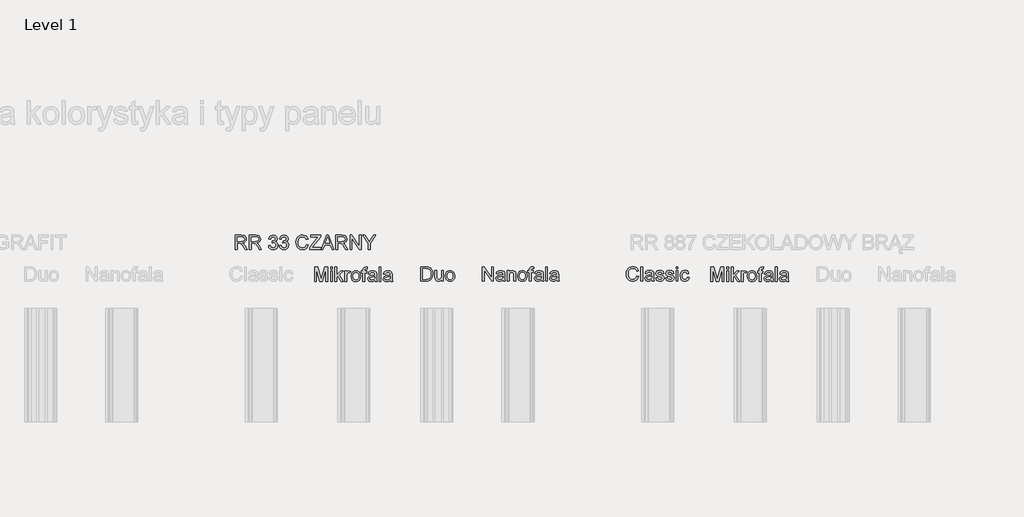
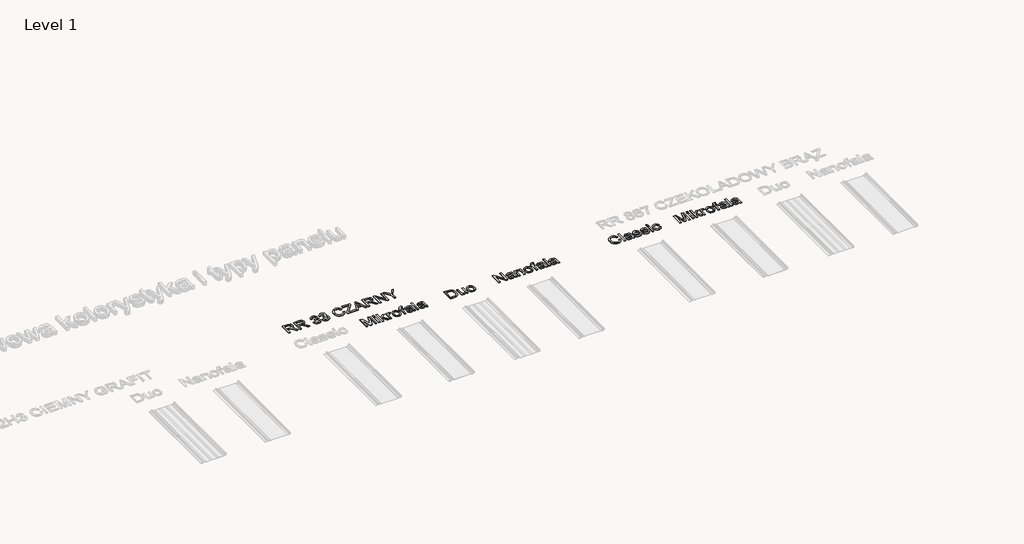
# One storey, part 21 of 24: 6 proxies.
"""IFC4 building model written with IfcOpenShell, lengths in millimetres."""

import ifcopenshell
import ifcopenshell.guid

model = None  # the IFC model being written
_history = None  # IfcOwnerHistory: only IFC2X3 demands one
_inside = {}  # id of a spatial element -> (the spatial element, [elements in it])
_under = {}  # id of a project, library or spatial element -> (it, [spatial elements below it])
_declared = {}  # id of a project -> (the project, [libraries it declares])
_typed = {}  # id of a type object -> (the type object, [elements of that type])
_made_of = {}  # id of a material, layer set ... -> (it, [elements and type objects made of it])


def new_model(schema):
    """Start an empty IFC model of exactly this schema.

    Asked for "IFC4X3", IfcOpenShell would pick the latest addendum, in which some entities
    have other attributes; the version numbers below select the first issue.
    IFC2X3 requires an IfcOwnerHistory on every rooted entity: one is made here for all.
    """
    global model, _history
    if schema == "IFC4X3":
        model = ifcopenshell.file(schema_version=(4, 3, 0, 0))
    else:
        model = ifcopenshell.file(schema=schema)
    _inside.clear()
    _under.clear()
    _declared.clear()
    _typed.clear()
    _made_of.clear()
    _history = None
    if model.schema == "IFC2X3":
        org = make("IfcOrganization", Name="unknown")
        user = make(
            "IfcPersonAndOrganization",
            ThePerson=make("IfcPerson", FamilyName="unknown"),
            TheOrganization=org,
        )
        app = make(
            "IfcApplication",
            ApplicationDeveloper=org,
            Version="unknown",
            ApplicationFullName="unknown",
            ApplicationIdentifier="unknown",
        )
        _history = make(
            "IfcOwnerHistory",
            OwningUser=user,
            OwningApplication=app,
            ChangeAction="ADDED",
            CreationDate=0,
        )
    return model


def make(cls, **values):
    """One entity of the class cls with the attributes given. An attribute that is None is left unset."""
    return model.create_entity(
        cls, **{name: value for name, value in values.items() if value is not None}
    )


def rooted(cls, **values):
    """An entity with a GlobalId (a new one), such as an element, a storey or a relation."""
    return make(cls, GlobalId=ifcopenshell.guid.new(), OwnerHistory=_history, **values)


def si_unit(unit_type, name, prefix=None):
    """IfcSIUnit, for example si_unit("LENGTHUNIT", "METRE", prefix="MILLI")."""
    return make("IfcSIUnit", UnitType=unit_type, Prefix=prefix, Name=name)


def assignment(units):
    """IfcUnitAssignment: the units of a project."""
    return None if units is None else make("IfcUnitAssignment", Units=units)


def point(xyz):
    """IfcCartesianPoint."""
    return None if xyz is None else make("IfcCartesianPoint", Coordinates=xyz)


def direction(xyz):
    """IfcDirection."""
    return None if xyz is None else make("IfcDirection", DirectionRatios=xyz)


def frame(location, z_axis=None, x_axis=None):
    """IfcAxis2Placement3D, a coordinate frame: its origin and axes. An axis left out is left unset."""
    return make(
        "IfcAxis2Placement3D",
        Location=point(location),
        Axis=direction(z_axis),
        RefDirection=direction(x_axis),
    )


def origin():
    """The frame at (0, 0, 0) with its axes left unset."""
    return frame((0.0, 0.0, 0.0))


def place(relative_to, where):
    """IfcLocalPlacement: puts the frame where relative to a parent placement (None: the world)."""
    return make(
        "IfcLocalPlacement", PlacementRelTo=relative_to, RelativePlacement=where
    )


def context(
    kind, dimensions, precision=None, world=None, true_north=None, identifier=None
):
    """IfcGeometricRepresentationContext, for example the 3D "Model" context."""
    return make(
        "IfcGeometricRepresentationContext",
        ContextIdentifier=identifier,
        ContextType=kind,
        CoordinateSpaceDimension=dimensions,
        Precision=precision,
        WorldCoordinateSystem=world,
        TrueNorth=true_north,
    )


def project(units=None, contexts=None):
    """IfcProject with its units and contexts."""
    return rooted(
        "IfcProject",
        Name="project",
        RepresentationContexts=contexts,
        UnitsInContext=assignment(units),
    )


def spatial(cls, under=None, at=None, **own):
    """A site, building, storey or space (cls), placed at a placement, below another one or the project."""
    s = rooted(cls, ObjectPlacement=at, **own)
    if under is not None:
        _under.setdefault(under.id(), (under, []))[1].append(s)
    return s


def polyline(points):
    """IfcPolyline through the points."""
    return make("IfcPolyline", Points=[point(p) for p in points])


def outline(outer, holes=None, kind="AREA"):
    """IfcArbitraryClosedProfileDef: a profile drawn as a closed curve; with holes, ...WithVoids."""
    if holes is None:
        return make("IfcArbitraryClosedProfileDef", ProfileType=kind, OuterCurve=outer)
    return make(
        "IfcArbitraryProfileDefWithVoids",
        ProfileType=kind,
        OuterCurve=outer,
        InnerCurves=holes,
    )


def extrude(swept, where, along, depth):
    """IfcExtrudedAreaSolid: the profile swept, set in the frame where, extruded along a direction by depth."""
    return make(
        "IfcExtrudedAreaSolid",
        SweptArea=swept,
        Position=where,
        ExtrudedDirection=direction(along),
        Depth=depth,
    )


def shape(context_of_items, identifier, shape_type, items):
    """IfcShapeRepresentation: the items that make up one representation, for example the "Body"."""
    return make(
        "IfcShapeRepresentation",
        ContextOfItems=context_of_items,
        RepresentationIdentifier=identifier,
        RepresentationType=shape_type,
        Items=items,
    )


def made_of(thing, what):
    """Note that an element or type object is made of a material, layer set ...; save() writes the relation."""
    if what is not None:
        _made_of.setdefault(what.id(), (what, []))[1].append(thing)
    return thing


def element(
    cls,
    number,
    at=None,
    inside=None,
    cuts=None,
    type_object=None,
    material=None,
    context=None,
    identifier="Body",
    shape_type=None,
    held_by="IfcProductDefinitionShape",
    body=None,
    shapes=None,
    **own,
):
    """One element of the class cls, such as IfcWall. Its Tag is "e" and its number.

    at: its placement. inside: the storey or other place that contains it. cuts: it is an
    opening in that element (IfcRelVoidsElement). A single representation is given by context,
    identifier, shape_type and body (its items); several are given by shapes. held_by: the class
    of the entity that holds the representations. save() writes the other relations.
    """
    e = rooted(cls, Tag="e%d" % number, ObjectPlacement=at, **own)
    if body is not None:
        shapes = [shape(context, identifier, shape_type, body)]
    if shapes is not None:
        e.Representation = make(held_by, Representations=shapes)
    if inside is not None:
        _inside.setdefault(inside.id(), (inside, []))[1].append(e)
    if cuts is not None:
        rooted(
            "IfcRelVoidsElement", RelatingBuildingElement=cuts, RelatedOpeningElement=e
        )
    if type_object is not None:
        _typed.setdefault(type_object.id(), (type_object, []))[1].append(e)
    return made_of(e, material)


def aggregate(whole, parts):
    """IfcRelAggregates: a whole, such as a stair, and the parts it consists of."""
    return rooted("IfcRelAggregates", RelatingObject=whole, RelatedObjects=parts)


def save(model, path):
    """Write the relations noted so far, then the file.

    IfcRelAggregates (storeys below a building ...), IfcRelContainedInSpatialStructure (elements
    in a storey), IfcRelDefinesByType, IfcRelAssociatesMaterial and IfcRelDeclares: one each for
    every whole, place, type object, material and project.
    """
    for whole, parts in _under.values():
        aggregate(whole, parts)
    for where, things in _inside.values():
        rooted(
            "IfcRelContainedInSpatialStructure",
            RelatedElements=things,
            RelatingStructure=where,
        )
    for kind, things in _typed.values():
        rooted("IfcRelDefinesByType", RelatedObjects=things, RelatingType=kind)
    for what, things in _made_of.values():
        rooted("IfcRelAssociatesMaterial", RelatedObjects=things, RelatingMaterial=what)
    for by, libraries in _declared.values():
        rooted("IfcRelDeclares", RelatingContext=by, RelatedDefinitions=libraries)
    model.write(path)


model = new_model("IFC4")

# Units and contexts
model_context = context("Model", 3, world=origin())
ifc_project = project(units=[si_unit("LENGTHUNIT", "METRE", prefix="MILLI")], contexts=[model_context])

# Site, building, storey
site = spatial("IfcSite", under=ifc_project)
building = spatial("IfcBuilding", under=site)
storey = spatial("IfcBuildingStorey", under=building, Name="Level 1", Elevation=0.0)

# Proxies
placement = place(None, origin())
element("IfcBuildingElementProxy", 1, Name="150", ObjectType="150", at=placement, inside=storey, context=model_context, shape_type="SweptSolid", body=[
    extrude(outline(polyline([(-3695.6654959, 1124.718613), (-3695.6654959, 1275.4030782), (-3663.3654568, 1275.4030782), (-3632.4633692, 1169.1955462), (-3626.2093753, 1147.0122619), (-3619.4771347, 1171.0349562), (-3589.1636583, 1275.4030782), (-3556.7532546, 1275.4030782), (-3556.7532546, 1124.718613), (-3575.5888127, 1124.718613), (-3575.5888127, 1256.5675201), (-3613.44387, 1124.718613), (-3638.9380923, 1124.718613), (-3676.8299378, 1256.5675201), (-3676.8299378, 1124.718613), (-3695.6654959, 1124.718613)])), frame((0.0, 0.0, 600.0), z_axis=(0.0, 0.0, 1.0), x_axis=(1.0, 0.0, 0.0)), (0.0, 0.0, 1.0), 10.0),
    extrude(outline(polyline([(-3526.1454726, 1256.5675201), (-3526.1454726, 1275.4030782), (-3507.3099144, 1275.4030782), (-3507.3099144, 1256.5675201), (-3526.1454726, 1256.5675201)])), frame((0.0, 0.0, 600.0), z_axis=(0.0, 0.0, 1.0), x_axis=(1.0, 0.0, 0.0)), (0.0, 0.0, 1.0), 10.0),
    extrude(outline(polyline([(-3526.1454726, 1124.718613), (-3526.1454726, 1235.3775171), (-3507.3099144, 1235.3775171), (-3507.3099144, 1124.718613), (-3526.1454726, 1124.718613)])), frame((0.0, 0.0, 600.0), z_axis=(0.0, 0.0, 1.0), x_axis=(1.0, 0.0, 0.0)), (0.0, 0.0, 1.0), 10.0),
    extrude(outline(polyline([(-3479.0565772, 1124.718613), (-3479.0565772, 1275.4030782), (-3460.221019, 1275.4030782), (-3460.221019, 1194.4322511), (-3417.988166, 1235.3775171), (-3391.9421207, 1235.3775171), (-3434.7267968, 1193.9172163), (-3389.587676, 1124.718613), (-3411.5870193, 1124.718613), (-3448.228066, 1180.8206173), (-3460.221019, 1169.158758), (-3460.221019, 1124.718613), (-3479.0565772, 1124.718613)])), frame((0.0, 0.0, 600.0), z_axis=(0.0, 0.0, 1.0), x_axis=(1.0, 0.0, 0.0)), (0.0, 0.0, 1.0), 10.0),
    extrude(outline(polyline([(-3373.1065626, 1124.718613), (-3373.1065626, 1235.3775171), (-3356.6254492, 1235.3775171), (-3356.6254492, 1219.0067684), (-3344.9268017, 1234.0899302), (-3333.1545779, 1237.7319619), (-3314.2454433, 1231.9194264), (-3320.5362255, 1215.0336428), (-3333.7799773, 1218.8964038), (-3344.4301611, 1215.1807956), (-3351.2175839, 1204.8800997), (-3354.2710044, 1182.8807564), (-3354.2710044, 1124.718613), (-3373.1065626, 1124.718613)])), frame((0.0, 0.0, 600.0), z_axis=(0.0, 0.0, 1.0), x_axis=(1.0, 0.0, 0.0)), (0.0, 0.0, 1.0), 10.0),
    extrude(outline(polyline([(-3307.182109, 1180.0480651), (-3303.1078159, 1206.7287068), (-3290.8849367, 1225.4814915), (-3275.7833808, 1234.6693443), (-3257.7019807, 1237.7319619), (-3237.9145279, 1234.0025582), (-3222.1093977, 1222.814347), (-3211.748921, 1205.0502452), (-3208.2954287, 1181.5931694), (-3209.822139, 1162.5644732), (-3214.4022699, 1148.0791197), (-3221.902464, 1137.2311993), (-3232.1893643, 1129.1148028), (-3244.4076451, 1124.0518269), (-3257.7019807, 1122.3641682), (-3277.7285568, 1126.0797764), (-3293.5152929, 1137.2266008), (-3303.765405, 1155.3631832), (-3307.182109, 1180.0480651)]), holes=[polyline([(-3288.3465509, 1180.0848533), (-3286.1668501, 1163.0381213), (-3279.6277476, 1150.8934169), (-3269.7869042, 1143.623149), (-3257.7019807, 1141.1997264), (-3245.6722394, 1143.6369446), (-3235.8497902, 1150.9485992), (-3229.3106877, 1163.254252), (-3227.1309869, 1180.6734645), (-3229.3244833, 1197.2235557), (-3235.9049725, 1209.2027132), (-3245.7412173, 1216.4729811), (-3257.7019807, 1218.8964038), (-3269.7869042, 1216.4821782), (-3279.6277476, 1209.2395014), (-3286.1668501, 1197.1223882), (-3288.3465509, 1180.0848533)])]), frame((0.0, 0.0, 600.0), z_axis=(0.0, 0.0, 1.0), x_axis=(1.0, 0.0, 0.0)), (0.0, 0.0, 1.0), 10.0),
    extrude(outline(polyline([(-3182.3965363, 1124.718613), (-3182.3965363, 1216.541959), (-3198.8776497, 1216.541959), (-3198.8776497, 1235.3775171), (-3182.3965363, 1235.3775171), (-3182.3965363, 1246.5243416), (-3180.4099735, 1262.2329028), (-3170.7714652, 1273.4533036), (-3151.7887543, 1277.757523), (-3134.6086651, 1275.6973838), (-3137.3677801, 1258.039048), (-3148.2202989, 1258.9219648), (-3160.0844933, 1255.7949679), (-3163.5609781, 1244.1331086), (-3163.5609781, 1235.3775171), (-3142.3709752, 1235.3775171), (-3142.3709752, 1216.541959), (-3163.5609781, 1216.541959), (-3163.5609781, 1124.718613), (-3182.3965363, 1124.718613)])), frame((0.0, 0.0, 600.0), z_axis=(0.0, 0.0, 1.0), x_axis=(1.0, 0.0, 0.0)), (0.0, 0.0, 1.0), 10.0),
    extrude(outline(polyline([(-3055.2565187, 1138.8452816), (-3073.5218598, 1126.0797764), (-3093.7001872, 1122.3641682), (-3109.4409381, 1124.5990513), (-3121.0522136, 1131.3037007), (-3128.2121169, 1141.4848349), (-3130.5987514, 1154.1491726), (-3126.9935078, 1169.0483934), (-3117.5205464, 1179.8641241), (-3104.3319769, 1186.0445416), (-3088.0348045, 1188.8772329), (-3055.3668833, 1195.3519561), (-3055.2565187, 1199.5458108), (-3056.5533028, 1207.9519144), (-3060.4436549, 1213.4517502), (-3069.1440641, 1217.5352404), (-3081.2657758, 1218.8964038), (-3100.3220632, 1215.2727661), (-3109.4087484, 1202.4152904), (-3128.2443066, 1204.7697351), (-3120.0957204, 1223.1638349), (-3103.6881834, 1233.9427774), (-3078.8377546, 1237.7319619), (-3056.0106768, 1234.3842357), (-3043.1164129, 1225.9781322), (-3037.3406656, 1213.1942328), (-3036.4209606, 1196.7131194), (-3036.4209606, 1173.2790364), (-3035.4644674, 1140.5559329), (-3031.7120711, 1124.718613), (-3050.5476292, 1124.718613), (-3055.2565187, 1138.8452816)]), holes=[polyline([(-3055.2565187, 1176.5163979), (-3085.6435715, 1170.7406506), (-3101.8487734, 1167.68723), (-3109.1880192, 1162.7208231), (-3111.7631932, 1155.4735478), (-3106.1529928, 1145.2832165), (-3089.6902735, 1141.1997264), (-3070.6339861, 1145.7062808), (-3058.3467275, 1156.613982), (-3055.3668833, 1171.182109), (-3055.2565187, 1176.5163979)])]), frame((0.0, 0.0, 600.0), z_axis=(0.0, 0.0, 1.0), x_axis=(1.0, 0.0, 0.0)), (0.0, 0.0, 1.0), 10.0),
    extrude(outline(polyline([(-3010.5220681, 1124.718613), (-3010.5220681, 1275.4030782), (-2991.68651, 1275.4030782), (-2991.68651, 1124.718613), (-3010.5220681, 1124.718613)])), frame((0.0, 0.0, 600.0), z_axis=(0.0, 0.0, 1.0), x_axis=(1.0, 0.0, 0.0)), (0.0, 0.0, 1.0), 10.0),
    extrude(outline(polyline([(-2892.7998297, 1138.8452816), (-2911.0651707, 1126.0797764), (-2931.2434982, 1122.3641682), (-2946.984249, 1124.5990513), (-2958.5955245, 1131.3037007), (-2965.7554278, 1141.4848349), (-2968.1420623, 1154.1491726), (-2964.5368187, 1169.0483934), (-2955.0638574, 1179.8641241), (-2941.8752878, 1186.0445416), (-2925.5781154, 1188.8772329), (-2892.9101943, 1195.3519561), (-2892.7998297, 1199.5458108), (-2894.0966137, 1207.9519144), (-2897.9869658, 1213.4517502), (-2906.687375, 1217.5352404), (-2918.8090867, 1218.8964038), (-2937.8653741, 1215.2727661), (-2946.9520594, 1202.4152904), (-2965.7876175, 1204.7697351), (-2957.6390313, 1223.1638349), (-2941.2314943, 1233.9427774), (-2916.3810656, 1237.7319619), (-2893.5539878, 1234.3842357), (-2880.6597238, 1225.9781322), (-2874.8839765, 1213.1942328), (-2873.9642715, 1196.7131194), (-2873.9642715, 1173.2790364), (-2873.0077783, 1140.5559329), (-2869.255382, 1124.718613), (-2888.0909401, 1124.718613), (-2892.7998297, 1138.8452816)]), holes=[polyline([(-2892.7998297, 1176.5163979), (-2923.1868825, 1170.7406506), (-2939.3920844, 1167.68723), (-2946.7313302, 1162.7208231), (-2949.3065041, 1155.4735478), (-2943.6963037, 1145.2832165), (-2927.2335844, 1141.1997264), (-2908.1772971, 1145.7062808), (-2895.8900384, 1156.613982), (-2892.9101943, 1171.182109), (-2892.7998297, 1176.5163979)])]), frame((0.0, 0.0, 600.0), z_axis=(0.0, 0.0, 1.0), x_axis=(1.0, 0.0, 0.0)), (0.0, 0.0, 1.0), 10.0),
])
element("IfcBuildingElementProxy", 2, Name="150", ObjectType="150", at=placement, inside=storey, context=model_context, shape_type="SweptSolid", body=[
    extrude(outline(polyline([(-2567.5807075, 1127.8407532), (-2567.5807075, 1278.5252184), (-2515.5989816, 1278.5252184), (-2488.7068077, 1276.3547147), (-2466.5603116, 1265.5757722), (-2456.1400541, 1254.097854), (-2448.7180349, 1239.8240325), (-2444.2758598, 1223.0302195), (-2442.7951347, 1203.9923262), (-2446.8050485, 1173.5868793), (-2457.1057443, 1151.6427183), (-2470.864531, 1137.9759022), (-2488.8723546, 1130.4159272), (-2513.097384, 1127.8407532), (-2567.5807075, 1127.8407532)]), holes=[polyline([(-2548.7451493, 1146.6763114), (-2515.4150406, 1146.6763114), (-2491.1716171, 1149.3986381), (-2477.1921013, 1157.0873718), (-2465.7325771, 1175.7941713), (-2461.6306929, 1204.2866318), (-2463.6402483, 1224.8144471), (-2469.6689145, 1239.9711853), (-2478.5762573, 1250.3822458), (-2489.2218425, 1256.6730279), (-2515.9300754, 1259.6896603), (-2548.7451493, 1259.6896603), (-2548.7451493, 1146.6763114)])]), frame((0.0, 0.0, 600.0), z_axis=(0.0, 0.0, 1.0), x_axis=(1.0, 0.0, 0.0)), (0.0, 0.0, 1.0), 10.0),
    extrude(outline(polyline([(-2348.617344, 1127.8407532), (-2348.617344, 1146.8602524), (-2363.369412, 1130.8297944), (-2382.6096403, 1125.4863084), (-2400.3231584, 1129.2387048), (-2412.5368406, 1138.6564839), (-2418.1470411, 1152.5256351), (-2419.250687, 1170.0368181), (-2419.250687, 1238.4996574), (-2400.4151289, 1238.4996574), (-2400.4151289, 1178.9027741), (-2399.2746947, 1159.699334), (-2391.8250843, 1148.4237508), (-2377.7903862, 1144.3218666), (-2362.0634309, 1148.5157213), (-2351.6707645, 1159.9384573), (-2348.617344, 1180.9261251), (-2348.617344, 1238.4996574), (-2329.7817858, 1238.4996574), (-2329.7817858, 1127.8407532), (-2348.617344, 1127.8407532)])), frame((0.0, 0.0, 600.0), z_axis=(0.0, 0.0, 1.0), x_axis=(1.0, 0.0, 0.0)), (0.0, 0.0, 1.0), 10.0),
    extrude(outline(polyline([(-2308.5917829, 1183.1702053), (-2304.5174898, 1209.850847), (-2292.2946105, 1228.6036317), (-2277.1930546, 1237.7914845), (-2259.1116545, 1240.8541021), (-2239.3242017, 1237.1246984), (-2223.5190715, 1225.9364872), (-2213.1585948, 1208.1723854), (-2209.7051026, 1184.7153097), (-2211.2318129, 1165.6866135), (-2215.8119437, 1151.2012599), (-2223.3121379, 1140.3533396), (-2233.5990382, 1132.2369431), (-2245.8173189, 1127.1739671), (-2259.1116545, 1125.4863084), (-2279.1382307, 1129.2019166), (-2294.9249668, 1140.348741), (-2305.1750789, 1158.4853234), (-2308.5917829, 1183.1702053)]), holes=[polyline([(-2289.7562247, 1183.2069935), (-2287.5765239, 1166.1602615), (-2281.0374215, 1154.0155572), (-2271.1965781, 1146.7452892), (-2259.1116545, 1144.3218666), (-2247.0819133, 1146.7590848), (-2237.259464, 1154.0707395), (-2230.7203616, 1166.3763922), (-2228.5406607, 1183.7956047), (-2230.7341571, 1200.3456959), (-2237.3146463, 1212.3248534), (-2247.1508912, 1219.5951213), (-2259.1116545, 1222.018544), (-2271.1965781, 1219.6043184), (-2281.0374215, 1212.3616416), (-2287.5765239, 1200.2445284), (-2289.7562247, 1183.2069935)])]), frame((0.0, 0.0, 600.0), z_axis=(0.0, 0.0, 1.0), x_axis=(1.0, 0.0, 0.0)), (0.0, 0.0, 1.0), 10.0),
])
element("IfcBuildingElementProxy", 3, Name="150", ObjectType="150", at=placement, inside=storey, context=model_context, shape_type="SweptSolid", body=[
    extrude(outline(polyline([(-279.0085992, 1182.8181359), (-260.1730411, 1177.9620936), (-268.8642532, 1156.013334), (-282.5034782, 1139.9782776), (-300.4193314, 1130.1696239), (-321.9404281, 1126.9000726), (-343.7880201, 1129.3740791), (-361.1382547, 1136.7960983), (-374.4371888, 1148.908613), (-384.1308794, 1165.4541057), (-390.049181, 1184.9058662), (-392.0219482, 1205.7371842), (-389.7916636, 1227.7089364), (-383.1008098, 1246.6824503), (-372.2988747, 1262.0553191), (-357.7353462, 1273.2251362), (-340.4632865, 1280.0263546), (-321.5357579, 1282.2934274), (-300.8837824, 1279.3595685), (-283.8094593, 1270.5579918), (-270.8462175, 1256.4313231), (-262.5274859, 1237.5221886), (-281.363044, 1233.0340282), (-287.8929494, 1246.7698222), (-296.8140878, 1256.1921998), (-308.2368238, 1261.6414519), (-322.2715219, 1263.4578692), (-338.4491326, 1261.4437153), (-351.7388697, 1255.4012536), (-361.8234349, 1245.9650804), (-368.38553, 1233.7697922), (-373.18639, 1205.7739724), (-371.7654458, 1188.373154), (-367.5026132, 1173.3267804), (-360.2369438, 1161.2096672), (-349.8074892, 1152.59663), (-337.3040999, 1147.4508806), (-323.8166263, 1145.7356308), (-308.0942695, 1148.0716815), (-294.9930719, 1155.0798335), (-285.1016448, 1166.6865104), (-279.0085992, 1182.8181359)])), frame((0.0, 0.0, 600.0), z_axis=(0.0, 0.0, 1.0), x_axis=(1.0, 0.0, 0.0)), (0.0, 0.0, 1.0), 10.0),
    extrude(outline(polyline([(-236.6285934, 1129.2545174), (-236.6285934, 1279.9389826), (-217.7930352, 1279.9389826), (-217.7930352, 1129.2545174), (-236.6285934, 1129.2545174)])), frame((0.0, 0.0, 600.0), z_axis=(0.0, 0.0, 1.0), x_axis=(1.0, 0.0, 0.0)), (0.0, 0.0, 1.0), 10.0),
    extrude(outline(polyline([(-118.9063549, 1143.381186), (-137.171696, 1130.6156808), (-157.3500234, 1126.9000726), (-173.0907743, 1129.1349558), (-184.7020498, 1135.8396051), (-191.8619531, 1146.0207393), (-194.2485875, 1158.685077), (-190.643344, 1173.5842978), (-181.1703826, 1184.4000285), (-167.9818131, 1190.580446), (-151.6846407, 1193.4131374), (-119.0167195, 1199.8878605), (-118.9063549, 1204.0817152), (-120.203139, 1212.4878188), (-124.0934911, 1217.9876546), (-132.7939003, 1222.0711448), (-144.915612, 1223.4323082), (-163.9718993, 1219.8086705), (-173.0585846, 1206.9511948), (-191.8941428, 1209.3056396), (-183.7455566, 1227.6997393), (-167.3380196, 1238.4786818), (-142.4875908, 1242.2678663), (-119.660513, 1238.9201402), (-106.7662491, 1230.5140366), (-100.9905018, 1217.7301372), (-100.0707968, 1201.2490239), (-100.0707968, 1177.8149408), (-99.1143036, 1145.0918373), (-95.3619072, 1129.2545174), (-114.1974654, 1129.2545174), (-118.9063549, 1143.381186)]), holes=[polyline([(-118.9063549, 1181.0523023), (-149.2934077, 1175.276555), (-165.4986096, 1172.2231344), (-172.8378554, 1167.2567275), (-175.4130294, 1160.0094522), (-169.802829, 1149.8191209), (-153.3401097, 1145.7356308), (-134.2838223, 1150.2421852), (-121.9965637, 1161.1498864), (-119.0167195, 1175.7180134), (-118.9063549, 1181.0523023)])]), frame((0.0, 0.0, 600.0), z_axis=(0.0, 0.0, 1.0), x_axis=(1.0, 0.0, 0.0)), (0.0, 0.0, 1.0), 10.0),
    extrude(outline(polyline([(-81.2352386, 1162.2167442), (-62.3996805, 1164.5711889), (-59.4290334, 1156.5145732), (-53.6808772, 1150.5916731), (-33.7048849, 1145.7356308), (-14.5014447, 1150.1870029), (-8.2474508, 1160.6348516), (-9.8201463, 1165.4357116), (-14.5382329, 1169.0961375), (-33.9256141, 1174.4672146), (-62.2893159, 1183.6826586), (-74.668545, 1194.4432069), (-78.8807939, 1209.6367334), (-75.4962795, 1223.6714315), (-66.2624414, 1234.3951916), (-54.2878825, 1239.9686039), (-38.0826806, 1242.2678663), (-15.1636323, 1238.5706523), (-0.5955053, 1228.564262), (5.8792178, 1211.6600843), (-12.9563403, 1209.3056396), (-20.0380687, 1219.6983059), (-36.6111526, 1223.4323082), (-54.6373704, 1219.8638528), (-60.0452357, 1211.5497197), (-57.8011555, 1206.068278), (-50.7746094, 1201.9112115), (-34.5510134, 1197.9012977), (-6.9046815, 1189.0353416), (5.9344001, 1178.9921632), (10.5881074, 1162.6214144), (5.1250597, 1144.5951966), (-10.6386838, 1131.5169917), (-33.9624023, 1126.9000726), (-52.9543103, 1129.1257587), (-66.8142644, 1135.8028169), (-76.0664966, 1146.8576709), (-81.2352386, 1162.2167442)])), frame((0.0, 0.0, 600.0), z_axis=(0.0, 0.0, 1.0), x_axis=(1.0, 0.0, 0.0)), (0.0, 0.0, 1.0), 10.0),
    extrude(outline(polyline([(24.714776, 1162.2167442), (43.5503341, 1164.5711889), (46.5209812, 1156.5145732), (52.2691374, 1150.5916731), (72.2451298, 1145.7356308), (91.4485699, 1150.1870029), (97.7025638, 1160.6348516), (96.1298683, 1165.4357116), (91.4117817, 1169.0961375), (72.0244006, 1174.4672146), (43.6606987, 1183.6826586), (31.2814696, 1194.4432069), (27.0692207, 1209.6367334), (30.4537351, 1223.6714315), (39.6875732, 1234.3951916), (51.6621321, 1239.9686039), (67.867334, 1242.2678663), (90.7863823, 1238.5706523), (105.3545093, 1228.564262), (111.8292324, 1211.6600843), (92.9936743, 1209.3056396), (85.9119459, 1219.6983059), (69.338862, 1223.4323082), (51.3126442, 1219.8638528), (45.9047789, 1211.5497197), (48.1488591, 1206.068278), (55.1754052, 1201.9112115), (71.3990012, 1197.9012977), (99.0453331, 1189.0353416), (111.8844147, 1178.9921632), (116.538122, 1162.6214144), (111.0750743, 1144.5951966), (95.3113309, 1131.5169917), (71.9876124, 1126.9000726), (52.9957044, 1129.1257587), (39.1357502, 1135.8028169), (29.883518, 1146.8576709), (24.714776, 1162.2167442)])), frame((0.0, 0.0, 600.0), z_axis=(0.0, 0.0, 1.0), x_axis=(1.0, 0.0, 0.0)), (0.0, 0.0, 1.0), 10.0),
    extrude(outline(polyline([(137.7281249, 1261.1034245), (137.7281249, 1279.9389826), (156.5636831, 1279.9389826), (156.5636831, 1261.1034245), (137.7281249, 1261.1034245)])), frame((0.0, 0.0, 600.0), z_axis=(0.0, 0.0, 1.0), x_axis=(1.0, 0.0, 0.0)), (0.0, 0.0, 1.0), 10.0),
    extrude(outline(polyline([(137.7281249, 1129.2545174), (137.7281249, 1239.9134216), (156.5636831, 1239.9134216), (156.5636831, 1129.2545174), (137.7281249, 1129.2545174)])), frame((0.0, 0.0, 600.0), z_axis=(0.0, 0.0, 1.0), x_axis=(1.0, 0.0, 0.0)), (0.0, 0.0, 1.0), 10.0),
    extrude(outline(polyline([(255.4503634, 1169.2800785), (274.2859215, 1166.9256337), (269.034406, 1150.1732074), (259.1659715, 1137.5134682), (245.60952, 1129.5534215), (229.2939535, 1126.9000726), (209.2581803, 1130.6018852), (193.5910059, 1141.7073229), (183.4788495, 1159.7289422), (180.1081307, 1184.1792993), (181.547469, 1200.9409227), (185.865484, 1215.467663), (193.1311534, 1227.1985001), (203.4134551, 1235.572414), (215.7145094, 1240.5940032), (229.0364361, 1242.2678663), (244.9519309, 1239.9686039), (257.6760494, 1233.0708164), (266.8041214, 1221.9423861), (271.9314767, 1206.9511948), (253.0959186, 1204.59675), (244.3587212, 1218.7050245), (229.1835889, 1223.4323082), (217.0112934, 1221.1054546), (207.3497925, 1214.1248937), (201.0452148, 1202.1135465), (198.9436889, 1184.6943341), (200.9992295, 1167.0405968), (207.1658515, 1154.987863), (216.6526084, 1148.0486888), (228.6685541, 1145.7356308), (238.4220255, 1147.1795676), (246.4188604, 1151.5113781), (252.2359944, 1158.8414269), (255.4503634, 1169.2800785)])), frame((0.0, 0.0, 600.0), z_axis=(0.0, 0.0, 1.0), x_axis=(1.0, 0.0, 0.0)), (0.0, 0.0, 1.0), 10.0),
])
element("IfcBuildingElementProxy", 4, Name="150", ObjectType="150", at=placement, inside=storey, context=model_context, shape_type="SweptSolid", body=[
    extrude(outline(polyline([(504.3345041, 1124.718613), (504.3345041, 1275.4030782), (536.6345432, 1275.4030782), (567.5366308, 1169.1955462), (573.7906247, 1147.0122619), (580.5228653, 1171.0349562), (610.8363417, 1275.4030782), (643.2467454, 1275.4030782), (643.2467454, 1124.718613), (624.4111873, 1124.718613), (624.4111873, 1256.5675201), (586.55613, 1124.718613), (561.0619077, 1124.718613), (523.1700622, 1256.5675201), (523.1700622, 1124.718613), (504.3345041, 1124.718613)])), frame((0.0, 0.0, 600.0), z_axis=(0.0, 0.0, 1.0), x_axis=(1.0, 0.0, 0.0)), (0.0, 0.0, 1.0), 10.0),
    extrude(outline(polyline([(673.8545274, 1256.5675201), (673.8545274, 1275.4030782), (692.6900856, 1275.4030782), (692.6900856, 1256.5675201), (673.8545274, 1256.5675201)])), frame((0.0, 0.0, 600.0), z_axis=(0.0, 0.0, 1.0), x_axis=(1.0, 0.0, 0.0)), (0.0, 0.0, 1.0), 10.0),
    extrude(outline(polyline([(673.8545274, 1124.718613), (673.8545274, 1235.3775171), (692.6900856, 1235.3775171), (692.6900856, 1124.718613), (673.8545274, 1124.718613)])), frame((0.0, 0.0, 600.0), z_axis=(0.0, 0.0, 1.0), x_axis=(1.0, 0.0, 0.0)), (0.0, 0.0, 1.0), 10.0),
    extrude(outline(polyline([(720.9434228, 1124.718613), (720.9434228, 1275.4030782), (739.778981, 1275.4030782), (739.778981, 1194.4322511), (782.011834, 1235.3775171), (808.0578793, 1235.3775171), (765.2732032, 1193.9172163), (810.412324, 1124.718613), (788.4129807, 1124.718613), (751.771934, 1180.8206173), (739.778981, 1169.158758), (739.778981, 1124.718613), (720.9434228, 1124.718613)])), frame((0.0, 0.0, 600.0), z_axis=(0.0, 0.0, 1.0), x_axis=(1.0, 0.0, 0.0)), (0.0, 0.0, 1.0), 10.0),
    extrude(outline(polyline([(826.8934374, 1124.718613), (826.8934374, 1235.3775171), (843.3745508, 1235.3775171), (843.3745508, 1219.0067684), (855.0731983, 1234.0899302), (866.8454221, 1237.7319619), (885.7545567, 1231.9194264), (879.4637745, 1215.0336428), (866.2200227, 1218.8964038), (855.5698389, 1215.1807956), (848.7824161, 1204.8800997), (845.7289956, 1182.8807564), (845.7289956, 1124.718613), (826.8934374, 1124.718613)])), frame((0.0, 0.0, 600.0), z_axis=(0.0, 0.0, 1.0), x_axis=(1.0, 0.0, 0.0)), (0.0, 0.0, 1.0), 10.0),
    extrude(outline(polyline([(892.817891, 1180.0480651), (896.8921841, 1206.7287068), (909.1150633, 1225.4814915), (924.2166192, 1234.6693443), (942.2980193, 1237.7319619), (962.0854721, 1234.0025582), (977.8906023, 1222.814347), (988.251079, 1205.0502452), (991.7045713, 1181.5931694), (990.177861, 1162.5644732), (985.5977301, 1148.0791197), (978.097536, 1137.2311993), (967.8106357, 1129.1148028), (955.5923549, 1124.0518269), (942.2980193, 1122.3641682), (922.2714432, 1126.0797764), (906.4847071, 1137.2266008), (896.234595, 1155.3631832), (892.817891, 1180.0480651)]), holes=[polyline([(911.6534491, 1180.0848533), (913.8331499, 1163.0381213), (920.3722524, 1150.8934169), (930.2130958, 1143.623149), (942.2980193, 1141.1997264), (954.3277606, 1143.6369446), (964.1502098, 1150.9485992), (970.6893123, 1163.254252), (972.8690131, 1180.6734645), (970.6755167, 1197.2235557), (964.0950275, 1209.2027132), (954.2587827, 1216.4729811), (942.2980193, 1218.8964038), (930.2130958, 1216.4821782), (920.3722524, 1209.2395014), (913.8331499, 1197.1223882), (911.6534491, 1180.0848533)])]), frame((0.0, 0.0, 600.0), z_axis=(0.0, 0.0, 1.0), x_axis=(1.0, 0.0, 0.0)), (0.0, 0.0, 1.0), 10.0),
    extrude(outline(polyline([(1017.6034637, 1124.718613), (1017.6034637, 1216.541959), (1001.1223503, 1216.541959), (1001.1223503, 1235.3775171), (1017.6034637, 1235.3775171), (1017.6034637, 1246.5243416), (1019.5900265, 1262.2329028), (1029.2285348, 1273.4533036), (1048.2112457, 1277.757523), (1065.3913349, 1275.6973838), (1062.6322199, 1258.039048), (1051.7797011, 1258.9219648), (1039.9155067, 1255.7949679), (1036.4390219, 1244.1331086), (1036.4390219, 1235.3775171), (1057.6290248, 1235.3775171), (1057.6290248, 1216.541959), (1036.4390219, 1216.541959), (1036.4390219, 1124.718613), (1017.6034637, 1124.718613)])), frame((0.0, 0.0, 600.0), z_axis=(0.0, 0.0, 1.0), x_axis=(1.0, 0.0, 0.0)), (0.0, 0.0, 1.0), 10.0),
    extrude(outline(polyline([(1144.7434813, 1138.8452816), (1126.4781402, 1126.0797764), (1106.2998128, 1122.3641682), (1090.5590619, 1124.5990513), (1078.9477864, 1131.3037007), (1071.7878831, 1141.4848349), (1069.4012486, 1154.1491726), (1073.0064922, 1169.0483934), (1082.4794536, 1179.8641241), (1095.6680231, 1186.0445416), (1111.9651955, 1188.8772329), (1144.6331167, 1195.3519561), (1144.7434813, 1199.5458108), (1143.4466972, 1207.9519144), (1139.5563451, 1213.4517502), (1130.8559359, 1217.5352404), (1118.7342242, 1218.8964038), (1099.6779368, 1215.2727661), (1090.5912516, 1202.4152904), (1071.7556934, 1204.7697351), (1079.9042796, 1223.1638349), (1096.3118166, 1233.9427774), (1121.1622454, 1237.7319619), (1143.9893232, 1234.3842357), (1156.8835871, 1225.9781322), (1162.6593344, 1213.1942328), (1163.5790394, 1196.7131194), (1163.5790394, 1173.2790364), (1164.5355326, 1140.5559329), (1168.2879289, 1124.718613), (1149.4523708, 1124.718613), (1144.7434813, 1138.8452816)]), holes=[polyline([(1144.7434813, 1176.5163979), (1114.3564285, 1170.7406506), (1098.1512266, 1167.68723), (1090.8119808, 1162.7208231), (1088.2368068, 1155.4735478), (1093.8470072, 1145.2832165), (1110.3097265, 1141.1997264), (1129.3660139, 1145.7062808), (1141.6532725, 1156.613982), (1144.6331167, 1171.182109), (1144.7434813, 1176.5163979)])]), frame((0.0, 0.0, 600.0), z_axis=(0.0, 0.0, 1.0), x_axis=(1.0, 0.0, 0.0)), (0.0, 0.0, 1.0), 10.0),
    extrude(outline(polyline([(1189.4779319, 1124.718613), (1189.4779319, 1275.4030782), (1208.31349, 1275.4030782), (1208.31349, 1124.718613), (1189.4779319, 1124.718613)])), frame((0.0, 0.0, 600.0), z_axis=(0.0, 0.0, 1.0), x_axis=(1.0, 0.0, 0.0)), (0.0, 0.0, 1.0), 10.0),
    extrude(outline(polyline([(1307.2001703, 1138.8452816), (1288.9348293, 1126.0797764), (1268.7565018, 1122.3641682), (1253.015751, 1124.5990513), (1241.4044755, 1131.3037007), (1234.2445722, 1141.4848349), (1231.8579377, 1154.1491726), (1235.4631813, 1169.0483934), (1244.9361426, 1179.8641241), (1258.1247122, 1186.0445416), (1274.4218846, 1188.8772329), (1307.0898057, 1195.3519561), (1307.2001703, 1199.5458108), (1305.9033863, 1207.9519144), (1302.0130342, 1213.4517502), (1293.312625, 1217.5352404), (1281.1909133, 1218.8964038), (1262.1346259, 1215.2727661), (1253.0479406, 1202.4152904), (1234.2123825, 1204.7697351), (1242.3609687, 1223.1638349), (1258.7685057, 1233.9427774), (1283.6189344, 1237.7319619), (1306.4460122, 1234.3842357), (1319.3402762, 1225.9781322), (1325.1160235, 1213.1942328), (1326.0357285, 1196.7131194), (1326.0357285, 1173.2790364), (1326.9922217, 1140.5559329), (1330.744618, 1124.718613), (1311.9090599, 1124.718613), (1307.2001703, 1138.8452816)]), holes=[polyline([(1307.2001703, 1176.5163979), (1276.8131175, 1170.7406506), (1260.6079156, 1167.68723), (1253.2686698, 1162.7208231), (1250.6934959, 1155.4735478), (1256.3036963, 1145.2832165), (1272.7664156, 1141.1997264), (1291.8227029, 1145.7062808), (1304.1099616, 1156.613982), (1307.0898057, 1171.182109), (1307.2001703, 1176.5163979)])]), frame((0.0, 0.0, 600.0), z_axis=(0.0, 0.0, 1.0), x_axis=(1.0, 0.0, 0.0)), (0.0, 0.0, 1.0), 10.0),
])
element("IfcBuildingElementProxy", 5, Name="150", ObjectType="150", at=placement, inside=storey, context=model_context, shape_type="SweptSolid", body=[
    extrude(outline(polyline([(-1916.7806572, 1127.8407532), (-1916.7806572, 1278.5252184), (-1896.6207239, 1278.5252184), (-1817.8939769, 1159.147511), (-1817.8939769, 1278.5252184), (-1799.0584188, 1278.5252184), (-1799.0584188, 1127.8407532), (-1819.2183521, 1127.8407532), (-1897.9450991, 1247.2552488), (-1897.9450991, 1127.8407532), (-1916.7806572, 1127.8407532)])), frame((0.0, 0.0, 600.0), z_axis=(0.0, 0.0, 1.0), x_axis=(1.0, 0.0, 0.0)), (0.0, 0.0, 1.0), 10.0),
    extrude(outline(polyline([(-1697.8172937, 1141.9674218), (-1716.0826347, 1129.2019166), (-1736.2609622, 1125.4863084), (-1752.001713, 1127.7211916), (-1763.6129885, 1134.4258409), (-1770.7728919, 1144.6069751), (-1773.1595263, 1157.2713128), (-1769.5542827, 1172.1705336), (-1760.0813214, 1182.9862643), (-1746.8927518, 1189.1666818), (-1730.5955795, 1191.9993732), (-1697.9276583, 1198.4740963), (-1697.8172937, 1202.667951), (-1699.1140777, 1211.0740546), (-1703.0044298, 1216.5738904), (-1711.704839, 1220.6573806), (-1723.8265507, 1222.018544), (-1742.8828381, 1218.3949063), (-1751.9695234, 1205.5374306), (-1770.8050815, 1207.8918754), (-1762.6564953, 1226.2859751), (-1746.2489583, 1237.0649176), (-1721.3985296, 1240.8541021), (-1698.5714518, 1237.506376), (-1685.6771878, 1229.1002724), (-1679.9014405, 1216.316373), (-1678.9817355, 1199.8352597), (-1678.9817355, 1176.4011766), (-1678.0252423, 1143.6780731), (-1674.272846, 1127.8407532), (-1693.1084041, 1127.8407532), (-1697.8172937, 1141.9674218)]), holes=[polyline([(-1697.8172937, 1179.6385381), (-1728.2043465, 1173.8627908), (-1744.4095484, 1170.8093702), (-1751.7487942, 1165.8429633), (-1754.3239681, 1158.595688), (-1748.7137677, 1148.4053567), (-1732.2510484, 1144.3218666), (-1713.1947611, 1148.828421), (-1700.9075024, 1159.7361222), (-1697.9276583, 1174.3042492), (-1697.8172937, 1179.6385381)])]), frame((0.0, 0.0, 600.0), z_axis=(0.0, 0.0, 1.0), x_axis=(1.0, 0.0, 0.0)), (0.0, 0.0, 1.0), 10.0),
    extrude(outline(polyline([(-1653.0828431, 1127.8407532), (-1653.0828431, 1238.4996574), (-1634.2472849, 1238.4996574), (-1634.2472849, 1223.0486136), (-1619.8447048, 1236.40273), (-1600.1814122, 1240.8541021), (-1582.3943177, 1237.2672527), (-1570.2542119, 1227.8494736), (-1564.6072232, 1213.9987165), (-1563.6139418, 1195.7885577), (-1563.6139418, 1127.8407532), (-1582.4495, 1127.8407532), (-1582.4495, 1193.250172), (-1584.6200038, 1209.9152263), (-1592.2903434, 1218.7260001), (-1605.2213955, 1222.018544), (-1616.2532568, 1220.1699369), (-1625.6572403, 1214.6241159), (-1632.0997738, 1203.9095528), (-1634.2472849, 1186.5547196), (-1634.2472849, 1127.8407532), (-1653.0828431, 1127.8407532)])), frame((0.0, 0.0, 600.0), z_axis=(0.0, 0.0, 1.0), x_axis=(1.0, 0.0, 0.0)), (0.0, 0.0, 1.0), 10.0),
    extrude(outline(polyline([(-1542.4239389, 1183.1702053), (-1538.3496458, 1209.850847), (-1526.1267665, 1228.6036317), (-1511.0252106, 1237.7914845), (-1492.9438106, 1240.8541021), (-1473.1563578, 1237.1246984), (-1457.3512275, 1225.9364872), (-1446.9907508, 1208.1723854), (-1443.5372586, 1184.7153097), (-1445.0639689, 1165.6866135), (-1449.6440997, 1151.2012599), (-1457.1442939, 1140.3533396), (-1467.4311942, 1132.2369431), (-1479.649475, 1127.1739671), (-1492.9438106, 1125.4863084), (-1512.9703867, 1129.2019166), (-1528.7571228, 1140.348741), (-1539.0072349, 1158.4853234), (-1542.4239389, 1183.1702053)]), holes=[polyline([(-1523.5883808, 1183.2069935), (-1521.4086799, 1166.1602615), (-1514.8695775, 1154.0155572), (-1505.0287341, 1146.7452892), (-1492.9438106, 1144.3218666), (-1480.9140693, 1146.7590848), (-1471.0916201, 1154.0707395), (-1464.5525176, 1166.3763922), (-1462.3728168, 1183.7956047), (-1464.5663132, 1200.3456959), (-1471.1468024, 1212.3248534), (-1480.9830472, 1219.5951213), (-1492.9438106, 1222.018544), (-1505.0287341, 1219.6043184), (-1514.8695775, 1212.3616416), (-1521.4086799, 1200.2445284), (-1523.5883808, 1183.2069935)])]), frame((0.0, 0.0, 600.0), z_axis=(0.0, 0.0, 1.0), x_axis=(1.0, 0.0, 0.0)), (0.0, 0.0, 1.0), 10.0),
    extrude(outline(polyline([(-1417.6383662, 1127.8407532), (-1417.6383662, 1219.6640992), (-1434.1194795, 1219.6640992), (-1434.1194795, 1238.4996574), (-1417.6383662, 1238.4996574), (-1417.6383662, 1249.6464818), (-1415.6518034, 1265.355043), (-1406.0132951, 1276.5754439), (-1387.0305842, 1280.8796632), (-1369.850495, 1278.819524), (-1372.6096099, 1261.1611883), (-1383.4621288, 1262.044105), (-1395.3263231, 1258.9171081), (-1398.802808, 1247.2552488), (-1398.802808, 1238.4996574), (-1377.6128051, 1238.4996574), (-1377.6128051, 1219.6640992), (-1398.802808, 1219.6640992), (-1398.802808, 1127.8407532), (-1417.6383662, 1127.8407532)])), frame((0.0, 0.0, 600.0), z_axis=(0.0, 0.0, 1.0), x_axis=(1.0, 0.0, 0.0)), (0.0, 0.0, 1.0), 10.0),
    extrude(outline(polyline([(-1290.4983486, 1141.9674218), (-1308.7636897, 1129.2019166), (-1328.9420171, 1125.4863084), (-1344.682768, 1127.7211916), (-1356.2940435, 1134.4258409), (-1363.4539468, 1144.6069751), (-1365.8405812, 1157.2713128), (-1362.2353377, 1172.1705336), (-1352.7623763, 1182.9862643), (-1339.5738068, 1189.1666818), (-1323.2766344, 1191.9993732), (-1290.6087132, 1198.4740963), (-1290.4983486, 1202.667951), (-1291.7951327, 1211.0740546), (-1295.6854848, 1216.5738904), (-1304.3858939, 1220.6573806), (-1316.5076057, 1222.018544), (-1335.563893, 1218.3949063), (-1344.6505783, 1205.5374306), (-1363.4861365, 1207.8918754), (-1355.3375503, 1226.2859751), (-1338.9300133, 1237.0649176), (-1314.0795845, 1240.8541021), (-1291.2525067, 1237.506376), (-1278.3582428, 1229.1002724), (-1272.5824955, 1216.316373), (-1271.6627905, 1199.8352597), (-1271.6627905, 1176.4011766), (-1270.7062973, 1143.6780731), (-1266.9539009, 1127.8407532), (-1285.7894591, 1127.8407532), (-1290.4983486, 1141.9674218)]), holes=[polyline([(-1290.4983486, 1179.6385381), (-1320.8854014, 1173.8627908), (-1337.0906033, 1170.8093702), (-1344.4298491, 1165.8429633), (-1347.0050231, 1158.595688), (-1341.3948227, 1148.4053567), (-1324.9321034, 1144.3218666), (-1305.875816, 1148.828421), (-1293.5885574, 1159.7361222), (-1290.6087132, 1174.3042492), (-1290.4983486, 1179.6385381)])]), frame((0.0, 0.0, 600.0), z_axis=(0.0, 0.0, 1.0), x_axis=(1.0, 0.0, 0.0)), (0.0, 0.0, 1.0), 10.0),
    extrude(outline(polyline([(-1245.763898, 1127.8407532), (-1245.763898, 1278.5252184), (-1226.9283399, 1278.5252184), (-1226.9283399, 1127.8407532), (-1245.763898, 1127.8407532)])), frame((0.0, 0.0, 600.0), z_axis=(0.0, 0.0, 1.0), x_axis=(1.0, 0.0, 0.0)), (0.0, 0.0, 1.0), 10.0),
    extrude(outline(polyline([(-1128.0416596, 1141.9674218), (-1146.3070006, 1129.2019166), (-1166.485328, 1125.4863084), (-1182.2260789, 1127.7211916), (-1193.8373544, 1134.4258409), (-1200.9972577, 1144.6069751), (-1203.3838922, 1157.2713128), (-1199.7786486, 1172.1705336), (-1190.3056872, 1182.9862643), (-1177.1171177, 1189.1666818), (-1160.8199453, 1191.9993732), (-1128.1520242, 1198.4740963), (-1128.0416596, 1202.667951), (-1129.3384436, 1211.0740546), (-1133.2287957, 1216.5738904), (-1141.9292049, 1220.6573806), (-1154.0509166, 1222.018544), (-1173.107204, 1218.3949063), (-1182.1938892, 1205.5374306), (-1201.0294474, 1207.8918754), (-1192.8808612, 1226.2859751), (-1176.4733242, 1237.0649176), (-1151.6228954, 1240.8541021), (-1128.7958176, 1237.506376), (-1115.9015537, 1229.1002724), (-1110.1258064, 1216.316373), (-1109.2061014, 1199.8352597), (-1109.2061014, 1176.4011766), (-1108.2496082, 1143.6780731), (-1104.4972119, 1127.8407532), (-1123.33277, 1127.8407532), (-1128.0416596, 1141.9674218)]), holes=[polyline([(-1128.0416596, 1179.6385381), (-1158.4287124, 1173.8627908), (-1174.6339142, 1170.8093702), (-1181.97316, 1165.8429633), (-1184.548334, 1158.595688), (-1178.9381336, 1148.4053567), (-1162.4754143, 1144.3218666), (-1143.419127, 1148.828421), (-1131.1318683, 1159.7361222), (-1128.1520242, 1174.3042492), (-1128.0416596, 1179.6385381)])]), frame((0.0, 0.0, 600.0), z_axis=(0.0, 0.0, 1.0), x_axis=(1.0, 0.0, 0.0)), (0.0, 0.0, 1.0), 10.0),
])
element("IfcBuildingElementProxy", 6, Name="150 Blue", ObjectType="150 Blue", at=placement, inside=storey, context=model_context, shape_type="SweptSolid", body=[
    extrude(outline(polyline([(-4536.4118342, 1464.3485888), (-4536.4118342, 1615.033054), (-4471.4806621, 1615.033054), (-4441.3327325, 1610.967958), (-4432.0529092, 1605.3393635), (-4424.8516192, 1596.583772), (-4420.2301016, 1585.7266546), (-4418.6895957, 1573.7934824), (-4421.2417771, 1558.9494439), (-4428.8983211, 1546.6437911), (-4441.8891541, 1537.6214852), (-4460.4442022, 1532.6274871), (-4449.7388361, 1524.5708714), (-4434.4717333, 1505.1834903), (-4409.3453931, 1464.3485888), (-4431.2343718, 1464.3485888), (-4450.8424821, 1495.5817702), (-4465.0059389, 1516.2567383), (-4474.9571469, 1526.0240053), (-4483.9150735, 1529.6108548), (-4494.8411687, 1530.2730423), (-4517.576276, 1530.2730423), (-4517.576276, 1464.3485888), (-4536.4118342, 1464.3485888)]), holes=[polyline([(-4517.576276, 1549.1086005), (-4475.4169994, 1549.1086005), (-4453.9142968, 1551.775745), (-4441.7006145, 1560.3106073), (-4437.5251539, 1573.0945066), (-4439.5163152, 1582.2823594), (-4445.4897991, 1589.6859846), (-4455.7675023, 1594.5696181), (-4470.6713217, 1596.1974959), (-4517.576276, 1596.1974959), (-4517.576276, 1549.1086005)])]), frame((0.0, 0.0, 600.0), z_axis=(0.0, 0.0, 1.0), x_axis=(1.0, 0.0, 0.0)), (0.0, 0.0, 1.0), 10.0),
    extrude(outline(polyline([(-4385.727369, 1464.3485888), (-4385.727369, 1615.033054), (-4320.7961968, 1615.033054), (-4290.6482673, 1610.967958), (-4281.368444, 1605.3393635), (-4274.1671539, 1596.583772), (-4269.5456364, 1585.7266546), (-4268.0051305, 1573.7934824), (-4270.5573119, 1558.9494439), (-4278.2138559, 1546.6437911), (-4291.2046888, 1537.6214852), (-4309.759737, 1532.6274871), (-4299.0543709, 1524.5708714), (-4283.7872681, 1505.1834903), (-4258.6609278, 1464.3485888), (-4280.5499066, 1464.3485888), (-4300.1580169, 1495.5817702), (-4314.3214737, 1516.2567383), (-4324.2726817, 1526.0240053), (-4333.2306083, 1529.6108548), (-4344.1567035, 1530.2730423), (-4366.8918108, 1530.2730423), (-4366.8918108, 1464.3485888), (-4385.727369, 1464.3485888)]), holes=[polyline([(-4366.8918108, 1549.1086005), (-4324.7325342, 1549.1086005), (-4303.2298316, 1551.775745), (-4291.0161493, 1560.3106073), (-4286.8406887, 1573.0945066), (-4288.83185, 1582.2823594), (-4294.8053339, 1589.6859846), (-4305.0830371, 1594.5696181), (-4319.9868564, 1596.1974959), (-4366.8918108, 1596.1974959), (-4366.8918108, 1549.1086005)])]), frame((0.0, 0.0, 600.0), z_axis=(0.0, 0.0, 1.0), x_axis=(1.0, 0.0, 0.0)), (0.0, 0.0, 1.0), 10.0),
    extrude(outline(polyline([(-4183.2451188, 1504.3741499), (-4164.4095607, 1506.7285947), (-4160.1927133, 1494.8919915), (-4154.0168943, 1486.8997551), (-4145.5786011, 1482.3472154), (-4134.5743309, 1480.8297022), (-4121.6616728, 1482.9174325), (-4111.6920708, 1489.1806235), (-4105.3185152, 1498.5248262), (-4103.1939967, 1509.8555916), (-4105.3001211, 1520.6115414), (-4111.6184944, 1529.3349433), (-4121.1834262, 1535.1152891), (-4133.0292265, 1537.0420711), (-4146.2361901, 1534.9819319), (-4144.1392627, 1553.81749), (-4141.1226304, 1553.5967608), (-4119.7486865, 1559.0046262), (-4112.6301699, 1565.8656254), (-4110.257331, 1575.6328924), (-4111.9771793, 1583.767683), (-4117.1367243, 1590.3665663), (-4125.009399, 1594.7397635), (-4134.8686365, 1596.1974959), (-4144.746268, 1594.7259679), (-4152.8212778, 1590.311384), (-4158.7165868, 1582.9537441), (-4162.0551159, 1572.6530482), (-4180.8906741, 1575.007493), (-4175.344853, 1591.9208677), (-4165.4764185, 1604.5484172), (-4151.9751492, 1612.4118948), (-4135.5308241, 1615.033054), (-4112.8141109, 1609.864312), (-4096.9216087, 1595.7376434), (-4091.4217728, 1576.7365383), (-4096.6456972, 1559.3725082), (-4112.096741, 1546.9013085), (-4100.306123, 1542.1372367), (-4091.5689256, 1534.0254387), (-4086.1610603, 1523.0073729), (-4084.3584385, 1509.5244978), (-4087.9636821, 1491.1671863), (-4098.7794127, 1475.8265071), (-4115.1041763, 1465.4522348), (-4135.2365185, 1461.994144), (-4153.4466772, 1464.9463971), (-4168.2723216, 1473.8031561), (-4178.5822145, 1487.3504106), (-4183.2451188, 1504.3741499)])), frame((0.0, 0.0, 600.0), z_axis=(0.0, 0.0, 1.0), x_axis=(1.0, 0.0, 0.0)), (0.0, 0.0, 1.0), 10.0),
    extrude(outline(polyline([(-4067.8773251, 1504.3741499), (-4049.041767, 1506.7285947), (-4044.8249196, 1494.8919915), (-4038.6491006, 1486.8997551), (-4030.2108074, 1482.3472154), (-4019.2065372, 1480.8297022), (-4006.2938792, 1482.9174325), (-3996.3242771, 1489.1806235), (-3989.9507215, 1498.5248262), (-3987.826203, 1509.8555916), (-3989.9323274, 1520.6115414), (-3996.2507007, 1529.3349433), (-4005.8156326, 1535.1152891), (-4017.6614328, 1537.0420711), (-4030.8683964, 1534.9819319), (-4028.7714691, 1553.81749), (-4025.7548367, 1553.5967608), (-4004.3808928, 1559.0046262), (-3997.2623762, 1565.8656254), (-3994.8895373, 1575.6328924), (-3996.6093856, 1583.767683), (-4001.7689306, 1590.3665663), (-4009.6416053, 1594.7397635), (-4019.5008428, 1596.1974959), (-4029.3784744, 1594.7259679), (-4037.4534841, 1590.311384), (-4043.3487931, 1582.9537441), (-4046.6873222, 1572.6530482), (-4065.5228804, 1575.007493), (-4059.9770593, 1591.9208677), (-4050.1086248, 1604.5484172), (-4036.6073556, 1612.4118948), (-4020.1630304, 1615.033054), (-3997.4463172, 1609.864312), (-3981.553815, 1595.7376434), (-3976.0539791, 1576.7365383), (-3981.2779035, 1559.3725082), (-3996.7289473, 1546.9013085), (-3984.9383293, 1542.1372367), (-3976.2011319, 1534.0254387), (-3970.7932666, 1523.0073729), (-3968.9906448, 1509.5244978), (-3972.5958884, 1491.1671863), (-3983.4116191, 1475.8265071), (-3999.7363826, 1465.4522348), (-4019.8687248, 1461.994144), (-4038.0788835, 1464.9463971), (-4052.9045279, 1473.8031561), (-4063.2144209, 1487.3504106), (-4067.8773251, 1504.3741499)])), frame((0.0, 0.0, 600.0), z_axis=(0.0, 0.0, 1.0), x_axis=(1.0, 0.0, 0.0)), (0.0, 0.0, 1.0), 10.0),
    extrude(outline(polyline([(-3780.6350633, 1517.9122073), (-3761.7995052, 1513.056165), (-3770.4907173, 1491.1074054), (-3784.1299423, 1475.072349), (-3802.0457954, 1465.2636953), (-3823.5668921, 1461.994144), (-3845.4144841, 1464.4681505), (-3862.7647187, 1471.8901697), (-3876.0636529, 1484.0026844), (-3885.7573434, 1500.5481771), (-3891.675645, 1519.9999376), (-3893.6484122, 1540.8312556), (-3891.4181276, 1562.8030078), (-3884.7272738, 1581.7765217), (-3873.9253388, 1597.1493905), (-3859.3618103, 1608.3192076), (-3842.0897506, 1615.120426), (-3823.162222, 1617.3874988), (-3802.5102464, 1614.4536399), (-3785.4359233, 1605.6520632), (-3772.4726815, 1591.5253945), (-3764.1539499, 1572.61626), (-3782.9895081, 1568.1280997), (-3789.5194135, 1581.8638936), (-3798.4405519, 1591.2862712), (-3809.8632878, 1596.7355233), (-3823.8979859, 1598.5519407), (-3840.0755967, 1596.5377867), (-3853.3653338, 1590.495325), (-3863.449899, 1581.0591518), (-3870.011994, 1568.8638636), (-3874.8128541, 1540.8680438), (-3873.3919099, 1523.4672254), (-3869.1290773, 1508.4208518), (-3861.8634078, 1496.3037386), (-3851.4339533, 1487.6907014), (-3838.930564, 1482.544952), (-3825.4430903, 1480.8297022), (-3809.7207336, 1483.1657529), (-3796.619536, 1490.1739049), (-3786.7281089, 1501.7805818), (-3780.6350633, 1517.9122073)])), frame((0.0, 0.0, 600.0), z_axis=(0.0, 0.0, 1.0), x_axis=(1.0, 0.0, 0.0)), (0.0, 0.0, 1.0), 10.0),
    extrude(outline(polyline([(-3747.6728365, 1464.3485888), (-3747.6728365, 1483.8831228), (-3670.6383468, 1578.2816427), (-3655.9966433, 1596.1974959), (-3738.2550575, 1596.1974959), (-3738.2550575, 1615.033054), (-3632.3050429, 1615.033054), (-3632.3050429, 1596.1974959), (-3716.6235962, 1492.8962316), (-3724.5698472, 1483.184147), (-3629.9505981, 1483.184147), (-3629.9505981, 1464.3485888), (-3747.6728365, 1464.3485888)])), frame((0.0, 0.0, 600.0), z_axis=(0.0, 0.0, 1.0), x_axis=(1.0, 0.0, 0.0)), (0.0, 0.0, 1.0), 10.0),
    extrude(outline(polyline([(-3626.2717781, 1464.3485888), (-3566.1230719, 1615.033054), (-3550.0834169, 1615.033054), (-3489.9714989, 1464.3485888), (-3509.8739149, 1464.3485888), (-3527.0907922, 1511.4374842), (-3589.189273, 1511.4374842), (-3606.4061504, 1464.3485888), (-3626.2717781, 1464.3485888)]), holes=[polyline([(-3582.2730915, 1530.2730423), (-3533.9701855, 1530.2730423), (-3547.5818194, 1567.3187593), (-3558.1400326, 1596.1974959), (-3567.5210235, 1570.5561208), (-3582.2730915, 1530.2730423)])]), frame((0.0, 0.0, 600.0), z_axis=(0.0, 0.0, 1.0), x_axis=(1.0, 0.0, 0.0)), (0.0, 0.0, 1.0), 10.0),
    extrude(outline(polyline([(-3469.8483538, 1464.3485888), (-3469.8483538, 1615.033054), (-3404.9171816, 1615.033054), (-3374.7692521, 1610.967958), (-3365.4894288, 1605.3393635), (-3358.2881387, 1596.583772), (-3353.6666212, 1585.7266546), (-3352.1261153, 1573.7934824), (-3354.6782967, 1558.9494439), (-3362.3348407, 1546.6437911), (-3375.3256737, 1537.6214852), (-3393.8807218, 1532.6274871), (-3383.1753557, 1524.5708714), (-3367.9082529, 1505.1834903), (-3342.7819127, 1464.3485888), (-3364.6708914, 1464.3485888), (-3384.2790017, 1495.5817702), (-3398.4424585, 1516.2567383), (-3408.3936665, 1526.0240053), (-3417.3515931, 1529.6108548), (-3428.2776883, 1530.2730423), (-3451.0127956, 1530.2730423), (-3451.0127956, 1464.3485888), (-3469.8483538, 1464.3485888)]), holes=[polyline([(-3451.0127956, 1549.1086005), (-3408.853519, 1549.1086005), (-3387.3508164, 1551.775745), (-3375.1371341, 1560.3106073), (-3370.9616735, 1573.0945066), (-3372.9528348, 1582.2823594), (-3378.9263187, 1589.6859846), (-3389.2040219, 1594.5696181), (-3404.1078412, 1596.1974959), (-3451.0127956, 1596.1974959), (-3451.0127956, 1549.1086005)])]), frame((0.0, 0.0, 600.0), z_axis=(0.0, 0.0, 1.0), x_axis=(1.0, 0.0, 0.0)), (0.0, 0.0, 1.0), 10.0),
    extrude(outline(polyline([(-3319.1638886, 1464.3485888), (-3319.1638886, 1615.033054), (-3299.0039552, 1615.033054), (-3220.2772083, 1495.6553466), (-3220.2772083, 1615.033054), (-3201.4416501, 1615.033054), (-3201.4416501, 1464.3485888), (-3221.6015834, 1464.3485888), (-3300.3283304, 1583.7630844), (-3300.3283304, 1464.3485888), (-3319.1638886, 1464.3485888)])), frame((0.0, 0.0, 600.0), z_axis=(0.0, 0.0, 1.0), x_axis=(1.0, 0.0, 0.0)), (0.0, 0.0, 1.0), 10.0),
    extrude(outline(polyline([(-3126.0994175, 1464.3485888), (-3126.0994175, 1528.176115), (-3184.9605367, 1615.033054), (-3162.7772524, 1615.033054), (-3131.36013, 1568.6431344), (-3115.2836868, 1544.951534), (-3099.1336672, 1570.3353916), (-3070.6228126, 1615.033054), (-3048.4027401, 1615.033054), (-3107.2638593, 1528.176115), (-3107.2638593, 1464.3485888), (-3126.0994175, 1464.3485888)])), frame((0.0, 0.0, 600.0), z_axis=(0.0, 0.0, 1.0), x_axis=(1.0, 0.0, 0.0)), (0.0, 0.0, 1.0), 10.0),
])

save(model, "model.ifc")
